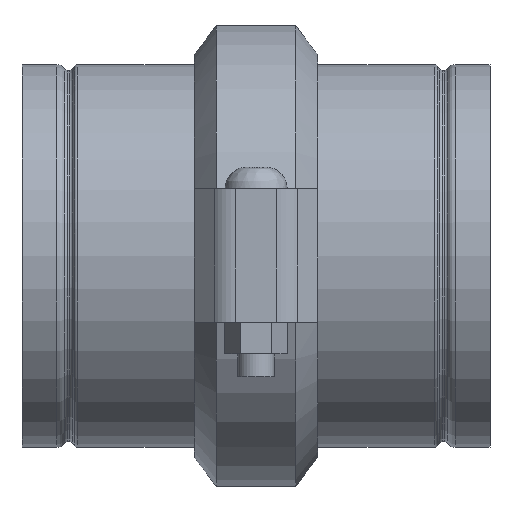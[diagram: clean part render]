
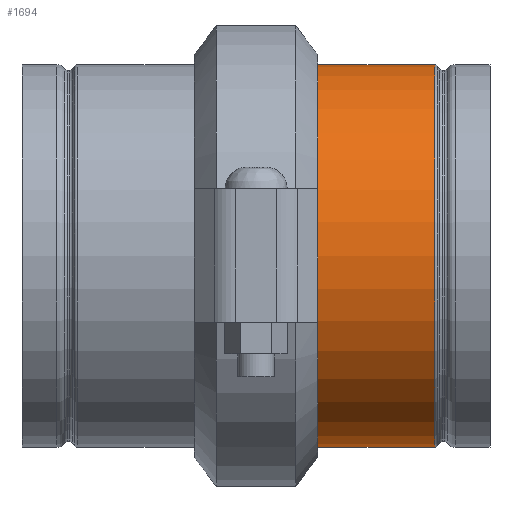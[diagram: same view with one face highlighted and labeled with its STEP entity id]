
A CAD part, top view. The second image highlights one B-rep face of the part: STEP entity #1694.
In plain terms, the highlighted cylindrical face has radius 84.138 mm (diameter 168.275 mm), a full revolution.
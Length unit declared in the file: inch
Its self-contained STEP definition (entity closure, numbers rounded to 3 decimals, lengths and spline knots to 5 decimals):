
#51=LINE('',#2776,#144);
#144=VECTOR('',#2231,3.3125);
#237=CYLINDRICAL_SURFACE('',#1917,3.3125);
#335=FACE_OUTER_BOUND('',#430,.T.);
#430=EDGE_LOOP('',(#1178,#1179,#1180,#1181,#1182,#1183,#1184,#1185));
#567=CIRCLE('',#1913,3.3125);
#568=CIRCLE('',#1914,3.3125);
#570=CIRCLE('',#1916,3.3125);
#571=CIRCLE('',#1918,3.3125);
#572=CIRCLE('',#1919,3.3125);
#573=CIRCLE('',#1920,3.3125);
#704=VERTEX_POINT('',#2763);
#705=VERTEX_POINT('',#2764);
#706=VERTEX_POINT('',#2766);
#707=VERTEX_POINT('',#2771);
#708=VERTEX_POINT('',#2772);
#709=VERTEX_POINT('',#2774);
#887=EDGE_CURVE('',#704,#705,#567,.T.);
#888=EDGE_CURVE('',#705,#706,#568,.T.);
#890=EDGE_CURVE('',#706,#704,#570,.T.);
#891=EDGE_CURVE('',#707,#708,#571,.T.);
#892=EDGE_CURVE('',#709,#707,#572,.T.);
#893=EDGE_CURVE('',#709,#705,#51,.T.);
#894=EDGE_CURVE('',#708,#709,#573,.T.);
#1178=ORIENTED_EDGE('',*,*,#891,.F.);
#1179=ORIENTED_EDGE('',*,*,#892,.F.);
#1180=ORIENTED_EDGE('',*,*,#893,.T.);
#1181=ORIENTED_EDGE('',*,*,#887,.F.);
#1182=ORIENTED_EDGE('',*,*,#890,.F.);
#1183=ORIENTED_EDGE('',*,*,#888,.F.);
#1184=ORIENTED_EDGE('',*,*,#893,.F.);
#1185=ORIENTED_EDGE('',*,*,#894,.F.);
#1694=ADVANCED_FACE('',(#335),#237,.T.);
#1913=AXIS2_PLACEMENT_3D('',#2765,#2217,#2218);
#1914=AXIS2_PLACEMENT_3D('',#2767,#2219,#2220);
#1916=AXIS2_PLACEMENT_3D('',#2769,#2223,#2224);
#1917=AXIS2_PLACEMENT_3D('',#2770,#2225,#2226);
#1918=AXIS2_PLACEMENT_3D('',#2773,#2227,#2228);
#1919=AXIS2_PLACEMENT_3D('',#2775,#2229,#2230);
#1920=AXIS2_PLACEMENT_3D('',#2777,#2232,#2233);
#2217=DIRECTION('center_axis',(-1.,0.,0.));
#2218=DIRECTION('ref_axis',(0.,-1.,0.));
#2219=DIRECTION('center_axis',(-1.,0.,0.));
#2220=DIRECTION('ref_axis',(0.,-1.,0.));
#2223=DIRECTION('center_axis',(-1.,0.,0.));
#2224=DIRECTION('ref_axis',(0.,-1.,0.));
#2225=DIRECTION('center_axis',(1.,0.,0.));
#2226=DIRECTION('ref_axis',(0.,1.,0.));
#2227=DIRECTION('center_axis',(1.,0.,0.));
#2228=DIRECTION('ref_axis',(0.,-1.,0.));
#2229=DIRECTION('center_axis',(1.,0.,0.));
#2230=DIRECTION('ref_axis',(0.,-1.,0.));
#2231=DIRECTION('',(-1.,0.,0.));
#2232=DIRECTION('center_axis',(1.,0.,0.));
#2233=DIRECTION('ref_axis',(0.,-1.,0.));
#2763=CARTESIAN_POINT('',(0.999,3.3125,0.));
#2764=CARTESIAN_POINT('',(0.999,-3.3125,0.));
#2765=CARTESIAN_POINT('Origin',(0.999,0.,0.));
#2766=CARTESIAN_POINT('',(0.999,0.,3.3125));
#2767=CARTESIAN_POINT('Origin',(0.999,0.,0.));
#2769=CARTESIAN_POINT('Origin',(0.999,0.,0.));
#2770=CARTESIAN_POINT('Origin',(2.02001,0.,0.));
#2771=CARTESIAN_POINT('',(3.0398,3.3125,0.));
#2772=CARTESIAN_POINT('',(3.0398,0.,3.3125));
#2773=CARTESIAN_POINT('Origin',(3.0398,0.,0.));
#2774=CARTESIAN_POINT('',(3.0398,-3.3125,0.));
#2775=CARTESIAN_POINT('Origin',(3.0398,0.,0.));
#2776=CARTESIAN_POINT('',(2.02001,-3.3125,0.));
#2777=CARTESIAN_POINT('Origin',(3.0398,0.,0.));
